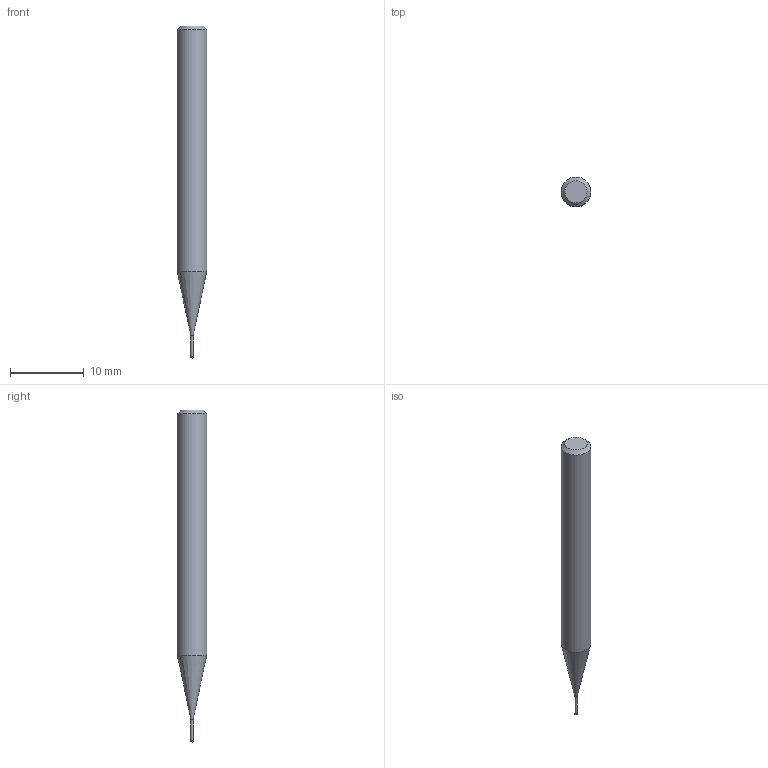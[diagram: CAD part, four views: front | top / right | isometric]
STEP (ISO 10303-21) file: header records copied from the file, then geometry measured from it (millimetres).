
FILE_DESCRIPTION((''),'2;1');
FILE_NAME('C:\Users\nsx150\AppData\Local\Temp\Mastercam 2021\ARV7HD45SN\TEMP.step','2023-06-13T16:32:35',(''),(''),'STEP Write','Mastercam 2021 ... CNC Software, Inc.','');
FILE_SCHEMA(('AUTOMOTIVE_DESIGN'));
Length unit declared in the file: millimetre
Products named in the file (1): None
Bounding box: 4 x 4 x 45 mm (x, y, z)
Volume: 456 mm3; surface area: 489.3 mm2
Topology: 2 solids, 2 shells, 9 faces, 14 edges, 8 vertices
Faces by surface type: plane 3, cylinder 3, cone 2, sphere 1
Full cylindrical faces by diameter (mm): 0.28 x1, 0.3 x1, 4 x1
Entity records: 211 total; most frequent: DIRECTION 36, CARTESIAN_POINT 25, AXIS2_PLACEMENT_3D 18, ORIENTED_EDGE 14, EDGE_LOOP 14, STYLED_ITEM 12, ADVANCED_FACE 9, FACE_BOUND 8
